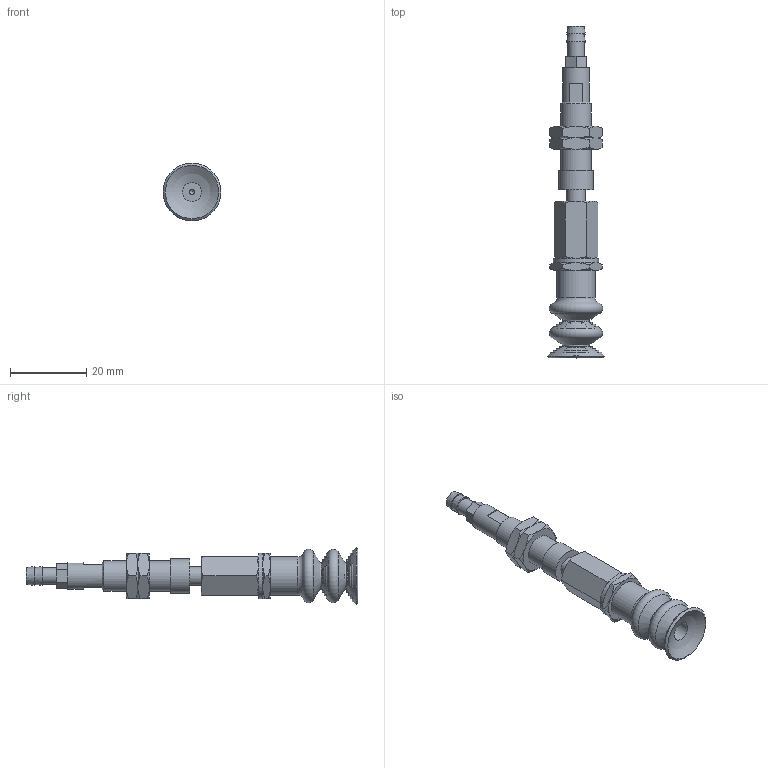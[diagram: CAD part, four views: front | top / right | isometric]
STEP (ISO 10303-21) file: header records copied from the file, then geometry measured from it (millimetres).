
FILE_DESCRIPTION(('STEP AP203'),'1');
FILE_NAME('-T.stp','2025-08-27T02:13:27',(' '),(' '),'Spatial InterOp 3D',' ',' ');
FILE_SCHEMA(('CONFIG_CONTROL_DESIGN'));
Length unit declared in the file: millimetre
Products named in the file (8): BNABPCTS-15-3-※-T; ADAPTER; NAPCTS-10-3-MBODY; Adapter_napc-15-T; Nut napc_s-15-3; NAPCTS-15-3-FBODY; BPCG-15-※; T
Assembly tree (8 placements, depth 2):
  BNABPCTS-15-3-※-T
    ADAPTER
    NAPCTS-10-3-MBODY
    Adapter_napc-15-T
    Nut napc_s-15-3  x2
    NAPCTS-15-3-FBODY
    BPCG-15-※
    T
Bounding box: 15.2 x 87.2 x 15.2 mm (x, y, z)
Volume: 5619.9 mm3; surface area: 5945.5 mm2
Topology: 8 solids, 8 shells, 238 faces, 693 edges, 446 vertices
Faces by surface type: cone 66, plane 60, sphere 58, torus 34, cylinder 20
Full cylindrical faces by diameter (mm): 1.25 x1, 3 x1, 4.134 x2, 4.3 x1, 5 x8, 7 x1, 7.188 x2, 8 x1, 9 x1, 10 x1, 12 x1
Entity records: 6789 total; most frequent: CARTESIAN_POINT 1928, DIRECTION 980, ORIENTED_EDGE 816, AXIS2_PLACEMENT_3D 468, EDGE_CURVE 408, EDGE_LOOP 306, VERTEX_POINT 289, CIRCLE 244
